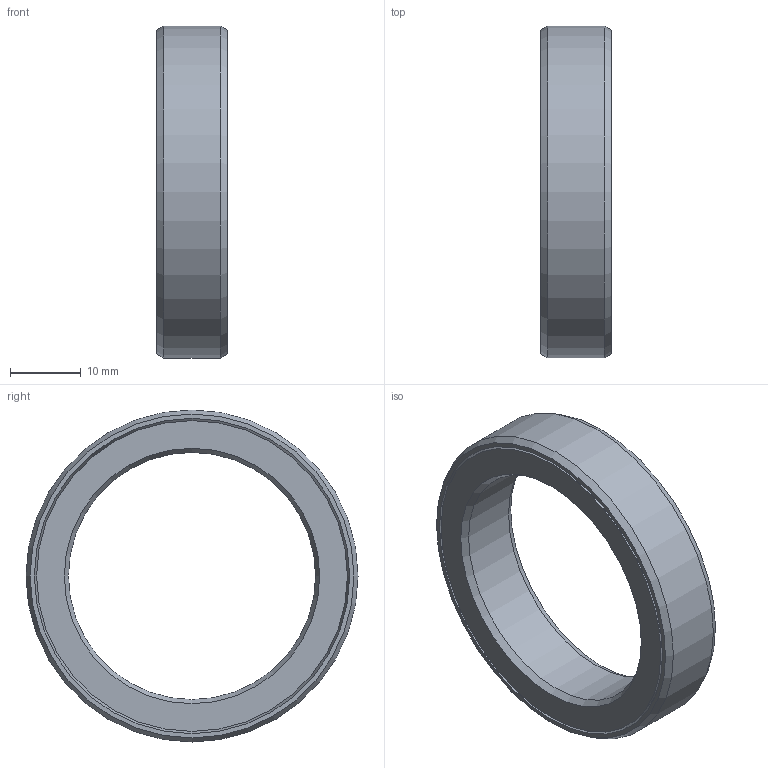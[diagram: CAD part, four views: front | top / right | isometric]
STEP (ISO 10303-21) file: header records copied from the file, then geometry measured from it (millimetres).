
FILE_DESCRIPTION(/* description */ (''),/* implementation_level */ '2;1');
FILE_NAME(/* name */ '301194 L 35x47x10.stp',/* time_stamp */ '2016-12-15T09:16:22+01:00',/* author */ (''),/* organization */ (''),/* preprocessor_version */ 'ST-DEVELOPER v15',/* originating_system */ 'SIEMENS PLM Software NX 8.5',/* authorisation */ '');
FILE_SCHEMA (('CONFIG_CONTROL_DESIGN'));
Length unit declared in the file: millimetre
Products named in the file (1): ATE0000122_01
Bounding box: 10 x 47 x 47 mm (x, y, z)
Volume: 7103.2 mm3; surface area: 6991.4 mm2
Topology: 2 solids, 2 shells, 18 faces, 34 edges, 20 vertices
Faces by surface type: cone 12, plane 4, cylinder 2
Full cylindrical faces by diameter (mm): 35 x1, 47 x1
Entity records: 454 total; most frequent: DIRECTION 74, CARTESIAN_POINT 55, AXIS2_PLACEMENT_3D 37, FACE_BOUND 36, EDGE_LOOP 36, ORIENTED_EDGE 36, ADVANCED_FACE 18, VERTEX_POINT 18
